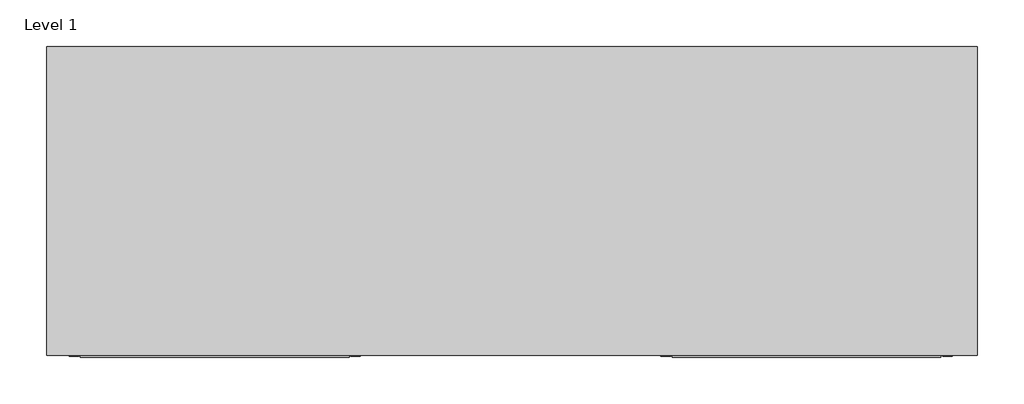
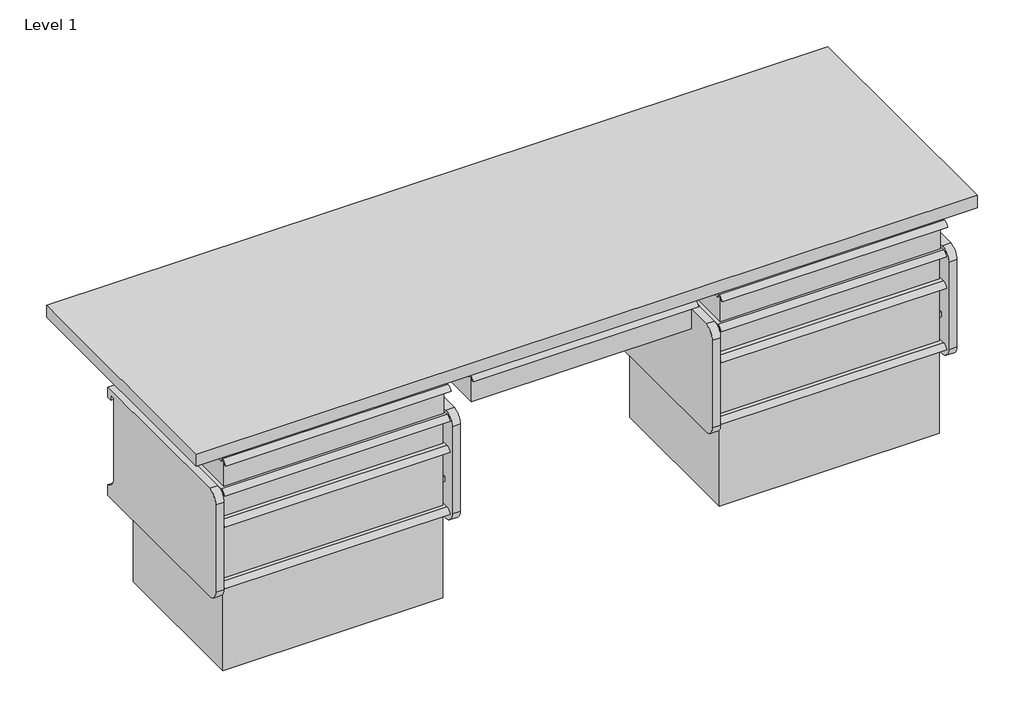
# One storey, incomplete: 12 furniture elements.
"""IFC4 building model written with IfcOpenShell, lengths in millimetres."""

import ifcopenshell
import ifcopenshell.guid

model = None  # the IFC model being written
_history = None  # IfcOwnerHistory: only IFC2X3 demands one
_inside = {}  # id of a spatial element -> (the spatial element, [elements in it])
_under = {}  # id of a project, library or spatial element -> (it, [spatial elements below it])
_declared = {}  # id of a project -> (the project, [libraries it declares])
_typed = {}  # id of a type object -> (the type object, [elements of that type])
_made_of = {}  # id of a material, layer set ... -> (it, [elements and type objects made of it])


def new_model(schema):
    """Start an empty IFC model of exactly this schema.

    Asked for "IFC4X3", IfcOpenShell would pick the latest addendum, in which some entities
    have other attributes; the version numbers below select the first issue.
    IFC2X3 requires an IfcOwnerHistory on every rooted entity: one is made here for all.
    """
    global model, _history
    if schema == "IFC4X3":
        model = ifcopenshell.file(schema_version=(4, 3, 0, 0))
    else:
        model = ifcopenshell.file(schema=schema)
    _inside.clear()
    _under.clear()
    _declared.clear()
    _typed.clear()
    _made_of.clear()
    _history = None
    if model.schema == "IFC2X3":
        org = make("IfcOrganization", Name="unknown")
        user = make(
            "IfcPersonAndOrganization",
            ThePerson=make("IfcPerson", FamilyName="unknown"),
            TheOrganization=org,
        )
        app = make(
            "IfcApplication",
            ApplicationDeveloper=org,
            Version="unknown",
            ApplicationFullName="unknown",
            ApplicationIdentifier="unknown",
        )
        _history = make(
            "IfcOwnerHistory",
            OwningUser=user,
            OwningApplication=app,
            ChangeAction="ADDED",
            CreationDate=0,
        )
    return model


def make(cls, **values):
    """One entity of the class cls with the attributes given. An attribute that is None is left unset."""
    return model.create_entity(
        cls, **{name: value for name, value in values.items() if value is not None}
    )


def rooted(cls, **values):
    """An entity with a GlobalId (a new one), such as an element, a storey or a relation."""
    return make(cls, GlobalId=ifcopenshell.guid.new(), OwnerHistory=_history, **values)


def si_unit(unit_type, name, prefix=None):
    """IfcSIUnit, for example si_unit("LENGTHUNIT", "METRE", prefix="MILLI")."""
    return make("IfcSIUnit", UnitType=unit_type, Prefix=prefix, Name=name)


def assignment(units):
    """IfcUnitAssignment: the units of a project."""
    return None if units is None else make("IfcUnitAssignment", Units=units)


def point(xyz):
    """IfcCartesianPoint."""
    return None if xyz is None else make("IfcCartesianPoint", Coordinates=xyz)


def direction(xyz):
    """IfcDirection."""
    return None if xyz is None else make("IfcDirection", DirectionRatios=xyz)


def frame(location, z_axis=None, x_axis=None):
    """IfcAxis2Placement3D, a coordinate frame: its origin and axes. An axis left out is left unset."""
    return make(
        "IfcAxis2Placement3D",
        Location=point(location),
        Axis=direction(z_axis),
        RefDirection=direction(x_axis),
    )


def origin():
    """The frame at (0, 0, 0) with its axes left unset."""
    return frame((0.0, 0.0, 0.0))


def place(relative_to, where):
    """IfcLocalPlacement: puts the frame where relative to a parent placement (None: the world)."""
    return make(
        "IfcLocalPlacement", PlacementRelTo=relative_to, RelativePlacement=where
    )


def context(
    kind, dimensions, precision=None, world=None, true_north=None, identifier=None
):
    """IfcGeometricRepresentationContext, for example the 3D "Model" context."""
    return make(
        "IfcGeometricRepresentationContext",
        ContextIdentifier=identifier,
        ContextType=kind,
        CoordinateSpaceDimension=dimensions,
        Precision=precision,
        WorldCoordinateSystem=world,
        TrueNorth=true_north,
    )


def project(units=None, contexts=None):
    """IfcProject with its units and contexts."""
    return rooted(
        "IfcProject",
        Name="project",
        RepresentationContexts=contexts,
        UnitsInContext=assignment(units),
    )


def spatial(cls, under=None, at=None, **own):
    """A site, building, storey or space (cls), placed at a placement, below another one or the project."""
    s = rooted(cls, ObjectPlacement=at, **own)
    if under is not None:
        _under.setdefault(under.id(), (under, []))[1].append(s)
    return s


def polyline(points):
    """IfcPolyline through the points."""
    return make("IfcPolyline", Points=[point(p) for p in points])


def circle_curve(where, radius):
    """IfcCircle in the frame where."""
    return make("IfcCircle", Position=where, Radius=radius)


def outline(outer, holes=None, kind="AREA"):
    """IfcArbitraryClosedProfileDef: a profile drawn as a closed curve; with holes, ...WithVoids."""
    if holes is None:
        return make("IfcArbitraryClosedProfileDef", ProfileType=kind, OuterCurve=outer)
    return make(
        "IfcArbitraryProfileDefWithVoids",
        ProfileType=kind,
        OuterCurve=outer,
        InnerCurves=holes,
    )


def extrude(swept, where, along, depth):
    """IfcExtrudedAreaSolid: the profile swept, set in the frame where, extruded along a direction by depth."""
    return make(
        "IfcExtrudedAreaSolid",
        SweptArea=swept,
        Position=where,
        ExtrudedDirection=direction(along),
        Depth=depth,
    )


def shape(context_of_items, identifier, shape_type, items):
    """IfcShapeRepresentation: the items that make up one representation, for example the "Body"."""
    return make(
        "IfcShapeRepresentation",
        ContextOfItems=context_of_items,
        RepresentationIdentifier=identifier,
        RepresentationType=shape_type,
        Items=items,
    )


def source(mapping_origin, context_of_items, identifier, shape_type, items):
    """IfcRepresentationMap: a shape defined once, which mapped items show again and again."""
    return make(
        "IfcRepresentationMap",
        MappingOrigin=mapping_origin,
        MappedRepresentation=shape(context_of_items, identifier, shape_type, items),
    )


def transform(
    local_origin,
    x_axis=None,
    y_axis=None,
    z_axis=None,
    scale=None,
    scale2=None,
    scale3=None,
    uniform=True,
):
    """IfcCartesianTransformationOperator3D, or its non-uniform kind. x_axis, y_axis, z_axis: its Axis1, 2, 3."""
    if uniform:
        return make(
            "IfcCartesianTransformationOperator3D",
            Axis1=direction(x_axis),
            Axis2=direction(y_axis),
            LocalOrigin=point(local_origin),
            Scale=scale,
            Axis3=direction(z_axis),
        )
    return make(
        "IfcCartesianTransformationOperator3DnonUniform",
        Axis1=direction(x_axis),
        Axis2=direction(y_axis),
        LocalOrigin=point(local_origin),
        Scale=scale,
        Axis3=direction(z_axis),
        Scale2=scale2,
        Scale3=scale3,
    )


def mapped(mapping_source, mapping_target):
    """IfcMappedItem: shows the shape of a source again, moved by a transform."""
    return make(
        "IfcMappedItem", MappingSource=mapping_source, MappingTarget=mapping_target
    )


def made_of(thing, what):
    """Note that an element or type object is made of a material, layer set ...; save() writes the relation."""
    if what is not None:
        _made_of.setdefault(what.id(), (what, []))[1].append(thing)
    return thing


def element(
    cls,
    number,
    at=None,
    inside=None,
    cuts=None,
    type_object=None,
    material=None,
    context=None,
    identifier="Body",
    shape_type=None,
    held_by="IfcProductDefinitionShape",
    body=None,
    shapes=None,
    **own,
):
    """One element of the class cls, such as IfcWall. Its Tag is "e" and its number.

    at: its placement. inside: the storey or other place that contains it. cuts: it is an
    opening in that element (IfcRelVoidsElement). A single representation is given by context,
    identifier, shape_type and body (its items); several are given by shapes. held_by: the class
    of the entity that holds the representations. save() writes the other relations.
    """
    e = rooted(cls, Tag="e%d" % number, ObjectPlacement=at, **own)
    if body is not None:
        shapes = [shape(context, identifier, shape_type, body)]
    if shapes is not None:
        e.Representation = make(held_by, Representations=shapes)
    if inside is not None:
        _inside.setdefault(inside.id(), (inside, []))[1].append(e)
    if cuts is not None:
        rooted(
            "IfcRelVoidsElement", RelatingBuildingElement=cuts, RelatedOpeningElement=e
        )
    if type_object is not None:
        _typed.setdefault(type_object.id(), (type_object, []))[1].append(e)
    return made_of(e, material)


def aggregate(whole, parts):
    """IfcRelAggregates: a whole, such as a stair, and the parts it consists of."""
    return rooted("IfcRelAggregates", RelatingObject=whole, RelatedObjects=parts)


def save(model, path):
    """Write the relations noted so far, then the file.

    IfcRelAggregates (storeys below a building ...), IfcRelContainedInSpatialStructure (elements
    in a storey), IfcRelDefinesByType, IfcRelAssociatesMaterial and IfcRelDeclares: one each for
    every whole, place, type object, material and project.
    """
    for whole, parts in _under.values():
        aggregate(whole, parts)
    for where, things in _inside.values():
        rooted(
            "IfcRelContainedInSpatialStructure",
            RelatedElements=things,
            RelatingStructure=where,
        )
    for kind, things in _typed.values():
        rooted("IfcRelDefinesByType", RelatedObjects=things, RelatingType=kind)
    for what, things in _made_of.values():
        rooted("IfcRelAssociatesMaterial", RelatedObjects=things, RelatingMaterial=what)
    for by, libraries in _declared.values():
        rooted("IfcRelDeclares", RelatingContext=by, RelatedDefinitions=libraries)
    model.write(path)


def plane_surface(at):
    """IfcPlane: the flat surface through the origin of the frame at, square to its z axis."""
    return make("IfcPlane", Position=at)


def cylinder_surface(at, radius):
    """IfcCylindricalSurface: all points at the distance radius from the z axis of the frame at."""
    return make("IfcCylindricalSurface", Position=at, Radius=radius)


def revolved_surface(curve, axis_point, axis_direction):
    """IfcSurfaceOfRevolution: the curve turned about the line through axis_point along axis_direction."""
    return make(
        "IfcSurfaceOfRevolution",
        SweptCurve=make("IfcArbitraryOpenProfileDef", ProfileType="CURVE", Curve=curve),
        AxisPosition=make("IfcAxis1Placement", Location=point(axis_point), Axis=direction(axis_direction)),
    )


def advanced_brep(points, edges, surfaces, faces):
    """IfcAdvancedBrep: a solid bounded by faces that lie on surfaces and meet in shared edges.

    An edge is (start, end): straight between two places in points (the first is 0);
    or (start, end, curve); or (start, end, curve, False) where it runs against its curve.
    A face is (place in surfaces, loops), or (place, loops, False) where it looks against
    its surface's normal. A loop lists edges by number (the first is 1), with a minus sign
    where the edge is run from its end to its start. The first loop is the outer one.
    """
    corners = [point(p) for p in points]
    vertices = [make("IfcVertexPoint", VertexGeometry=c) for c in corners]
    made = []
    for start, end, *more in edges:
        made.append(
            make(
                "IfcEdgeCurve",
                EdgeStart=vertices[start],
                EdgeEnd=vertices[end],
                EdgeGeometry=more[0] if more else make("IfcPolyline", Points=[corners[start], corners[end]]),
                SameSense=more[1] if len(more) > 1 else True,
            )
        )
    hull = []
    for where, loops, *sense in faces:
        bounds = []
        for j, loop in enumerate(loops):
            ring = [make("IfcOrientedEdge", EdgeElement=made[abs(k) - 1], Orientation=k > 0) for k in loop]
            bounds.append(
                make(
                    "IfcFaceOuterBound" if j == 0 else "IfcFaceBound",
                    Bound=make("IfcEdgeLoop", EdgeList=ring),
                    Orientation=True,
                )
            )
        hull.append(make("IfcAdvancedFace", Bounds=bounds, FaceSurface=surfaces[where], SameSense=sense[0] if sense else True))
    return make("IfcAdvancedBrep", Outer=make("IfcClosedShell", CfsFaces=hull))


def furniture_e68dc01e(model_context):
    return source(origin(), model_context, "Body", "SolidModel", [
        advanced_brep(
        [(-171.7622951, -331.6523397, 800.1), (-171.7622951, -357.0523397, 774.7), (-171.7622951, -357.0523397, 558.8), (-171.7622951, -331.6523397, 533.4), (-171.7622951, 43.0421197, 533.4), (-171.7622951, 43.0421197, 800.1), (-190.8122951, -331.6523397, 533.4), (-190.8122951, -357.0523397, 558.8), (-190.8122951, -357.0523397, 774.7), (-190.8122951, -331.6523397, 800.1), (-190.8122951, 81.0976603, 800.1), (-190.8122951, 81.0976603, 774.7), (-190.8122951, 68.4421197, 774.7), (-190.8122951, 68.4421197, 787.4), (-190.8122951, 55.7421197, 787.4), (-190.8122951, 55.7421197, 591.34502), (-190.8122951, 81.0976603, 558.8), (-190.8122951, 81.0976603, 533.4), (380.6877049, 81.0976603, 533.4), (380.6877049, -331.6523397, 533.4), (361.6377049, -331.6523397, 533.4), (361.6377049, 43.0421197, 533.4), (361.6377049, 43.0421197, 800.1), (361.6377049, -331.6523397, 800.1), (380.6877049, -331.6523397, 800.1), (380.6877049, 81.0976603, 800.1), (380.6877049, 81.0976603, 558.8), (380.6877049, 55.7421197, 591.34502), (380.6877049, 55.7421197, 787.4), (380.6877049, 68.4421197, 787.4), (380.6877049, 68.4421197, 774.7), (380.6877049, 81.0976603, 774.7), (380.6877049, -357.0523397, 774.7), (380.6877049, -357.0523397, 558.8), (361.6377049, -357.0523397, 558.8), (361.6377049, -357.0523397, 774.7)],
        [
            (0, 1, circle_curve(frame((-171.7622951, -331.6523397, 774.7), z_axis=(1.0, 0.0, 0.0), x_axis=(0.0, 0.0, 1.0)), 25.4)),
            (1, 2),
            (2, 3, circle_curve(frame((-171.7622951, -331.6523397, 558.8), z_axis=(1.0, 0.0, 0.0), x_axis=(0.0, 0.0, 1.0)), 25.4)),
            (3, 4),
            (4, 5),
            (5, 0),
            (6, 7, circle_curve(frame((-190.8122951, -331.6523397, 558.8), z_axis=(-1.0, 0.0, 0.0), x_axis=(0.0, 0.0, 1.0)), 25.4)),
            (7, 8),
            (8, 9, circle_curve(frame((-190.8122951, -331.6523397, 774.7), z_axis=(-1.0, 0.0, 0.0), x_axis=(0.0, 0.0, 1.0)), 25.4)),
            (9, 10),
            (10, 11),
            (11, 12),
            (12, 13),
            (13, 14),
            (14, 15),
            (15, 16, circle_curve(frame((-190.8122951, 89.3064162, 591.34502), z_axis=(1.0, 0.0, 0.0), x_axis=(0.0, 0.0, 1.0)), 33.5642965)),
            (16, 17),
            (17, 6),
            (0, 9),
            (8, 1),
            (7, 2),
            (6, 3),
            (17, 18),
            (18, 19),
            (19, 20),
            (20, 21),
            (21, 4),
            (5, 22),
            (22, 23),
            (23, 24),
            (24, 25),
            (25, 10),
            (18, 26),
            (26, 27, circle_curve(frame((380.6877049, 89.3064162, 591.34502), z_axis=(-1.0, 0.0, 0.0), x_axis=(0.0, 0.0, 1.0)), 33.5642965)),
            (27, 28),
            (28, 29),
            (29, 30),
            (30, 31),
            (31, 25),
            (24, 32, circle_curve(frame((380.6877049, -331.6523397, 774.7), z_axis=(1.0, 0.0, 0.0), x_axis=(0.0, 0.0, 1.0)), 25.4)),
            (32, 33),
            (33, 19, circle_curve(frame((380.6877049, -331.6523397, 558.8), z_axis=(1.0, 0.0, 0.0), x_axis=(0.0, 0.0, 1.0)), 25.4)),
            (16, 26),
            (15, 27),
            (14, 28),
            (13, 29),
            (12, 30),
            (11, 31),
            (21, 22),
            (20, 34, circle_curve(frame((361.6377049, -331.6523397, 558.8), z_axis=(-1.0, 0.0, 0.0), x_axis=(0.0, 0.0, 1.0)), 25.4)),
            (34, 35),
            (35, 23, circle_curve(frame((361.6377049, -331.6523397, 774.7), z_axis=(-1.0, 0.0, 0.0), x_axis=(0.0, 0.0, 1.0)), 25.4)),
            (35, 32),
            (34, 33),
        ],
        [
            plane_surface(frame((-171.7622951, -331.6523397, 800.1), z_axis=(1.0, 0.0, 0.0), x_axis=(0.0, -1.0, 0.0))),
            plane_surface(frame((-190.8122951, -331.6523397, 800.1), z_axis=(-1.0, 0.0, 0.0), x_axis=(0.0, 1.0, 0.0))),
            cylinder_surface(frame((-190.8122951, -331.6523397, 774.7), z_axis=(1.0, 0.0, 0.0), x_axis=(0.0, 0.0, 1.0)), 25.4),
            plane_surface(frame((-171.7622951, -357.0523397, 774.7), z_axis=(0.0, -1.0, 0.0), x_axis=(-1.0, 0.0, 0.0))),
            cylinder_surface(frame((-190.8122951, -331.6523397, 558.8), z_axis=(1.0, 0.0, 0.0), x_axis=(0.0, 0.0, 1.0)), 25.4),
            plane_surface(frame((-171.7622951, -331.6523397, 533.4), z_axis=(0.0, 0.0, -1.0), x_axis=(-1.0, 0.0, 0.0))),
            plane_surface(frame((-171.7622951, 43.0421197, 800.1), z_axis=(0.0, 0.0, 1.0), x_axis=(-1.0, 0.0, 0.0))),
            plane_surface(frame((380.6877049, 81.0976603, 558.8), z_axis=(1.0, 0.0, 0.0), x_axis=(0.0, 0.0, 1.0))),
            plane_surface(frame((380.6877049, 81.0976603, 533.4), z_axis=(0.0, 1.0, 0.0), x_axis=(-1.0, 0.0, 0.0))),
            revolved_surface(polyline([(-190.8122951, 89.3064162, 624.9093164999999), (380.68770489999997, 89.3064162, 624.9093164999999)]), (-190.8122951, 89.3064162, 591.34502), (-1.0, 0.0, 0.0)),
            plane_surface(frame((380.6877049, 55.7421197, 591.34502), z_axis=(0.0, 1.0, 0.0), x_axis=(-1.0, 0.0, 0.0))),
            plane_surface(frame((380.6877049, 55.7421197, 787.4), z_axis=(0.0, 0.0, -1.0), x_axis=(-1.0, 0.0, 0.0))),
            plane_surface(frame((380.6877049, 68.4421197, 787.4), z_axis=(0.0, -1.0, 0.0), x_axis=(-1.0, 0.0, 0.0))),
            plane_surface(frame((380.6877049, 68.4421197, 774.7), z_axis=(0.0, 0.0, -1.0), x_axis=(-1.0, 0.0, 0.0))),
            plane_surface(frame((380.6877049, 81.0976603, 774.7), z_axis=(0.0, 1.0, 0.0), x_axis=(-1.0, 0.0, 0.0))),
            plane_surface(frame((380.6877049, 43.0421197, 800.1), z_axis=(0.0, -1.0, 0.0), x_axis=(-1.0, 0.0, 0.0))),
            plane_surface(frame((361.6377049, -331.6523397, 800.1), z_axis=(-1.0, 0.0, 0.0), x_axis=(0.0, 1.0, 0.0))),
            cylinder_surface(frame((361.6377049, -331.6523397, 774.7), z_axis=(1.0, 0.0, 0.0), x_axis=(0.0, 0.0, 1.0)), 25.4),
            plane_surface(frame((380.6877049, -357.0523397, 774.7), z_axis=(0.0, -1.0, 0.0), x_axis=(-1.0, 0.0, 0.0))),
            cylinder_surface(frame((361.6377049, -331.6523397, 558.8), z_axis=(1.0, 0.0, 0.0), x_axis=(0.0, 0.0, 1.0)), 25.4),
        ],
        [
            (0, [[1, 2, 3, 4, 5, 6]]),
            (1, [[7, 8, 9, 10, 11, 12, 13, 14, 15, 16, 17, 18]]),
            (2, [[-1, 19, -9, 20]]),
            (3, [[-2, -20, -8, 21]]),
            (4, [[-3, -21, -7, 22]]),
            (5, [[-4, -22, -18, 23, 24, 25, 26, 27]]),
            (6, [[-6, 28, 29, 30, 31, 32, -10, -19]]),
            (7, [[-24, 33, 34, 35, 36, 37, 38, 39, -31, 40, 41, 42]]),
            (8, [[-33, -23, -17, 43]]),
            (9, [[-34, -43, -16, 44]]),
            (10, [[-35, -44, -15, 45]]),
            (11, [[-36, -45, -14, 46]]),
            (12, [[-37, -46, -13, 47]]),
            (13, [[-38, -47, -12, 48]]),
            (14, [[-39, -48, -11, -32]]),
            (15, [[-5, -27, 49, -28]]),
            (16, [[-29, -49, -26, 50, 51, 52]]),
            (17, [[-40, -30, -52, 53]]),
            (18, [[-41, -53, -51, 54]]),
            (19, [[-42, -54, -50, -25]]),
        ],
    ),
        extrude(outline(polyline([(355.2877049, -328.4773397), (355.2877049, 36.6921197), (361.6377049, 36.6921197), (361.6377049, -328.4773397), (355.2877049, -328.4773397)])), frame((0.0, 0.0, 622.3), z_axis=(0.0, 0.0, 1.0), x_axis=(1.0, 0.0, 0.0)), (0.0, 0.0, 1.0), 12.7),
        extrude(outline(polyline([(355.2877049, -328.4773397), (355.2877049, 36.6921197), (361.6377049, 36.6921197), (361.6377049, -328.4773397), (355.2877049, -328.4773397)])), frame((0.0, 0.0, 698.5), z_axis=(0.0, 0.0, 1.0), x_axis=(1.0, 0.0, 0.0)), (0.0, 0.0, 1.0), 12.7),
        extrude(outline(polyline([(355.2877049, -328.4773397), (355.2877049, 36.6921197), (361.6377049, 36.6921197), (361.6377049, -328.4773397), (355.2877049, -328.4773397)])), frame((0.0, 0.0, 774.7), z_axis=(0.0, 0.0, 1.0), x_axis=(1.0, 0.0, 0.0)), (0.0, 0.0, 1.0), 12.7),
        extrude(outline(polyline([(355.2877049, -328.4773397), (355.2877049, 36.6921197), (361.6377049, 36.6921197), (361.6377049, -328.4773397), (355.2877049, -328.4773397)])), frame((0.0, 0.0, 546.1), z_axis=(0.0, 0.0, 1.0), x_axis=(1.0, 0.0, 0.0)), (0.0, 0.0, 1.0), 12.7),
        extrude(outline(polyline([(-171.7622951, -328.4773397), (-171.7622951, 36.6921197), (-165.4122951, 36.6921197), (-165.4122951, -328.4773397), (-171.7622951, -328.4773397)])), frame((0.0, 0.0, 622.3), z_axis=(0.0, 0.0, 1.0), x_axis=(1.0, 0.0, 0.0)), (0.0, 0.0, 1.0), 12.7),
        extrude(outline(polyline([(-171.7622951, -328.4773397), (-171.7622951, 36.6921197), (-165.4122951, 36.6921197), (-165.4122951, -328.4773397), (-171.7622951, -328.4773397)])), frame((0.0, 0.0, 698.5), z_axis=(0.0, 0.0, 1.0), x_axis=(1.0, 0.0, 0.0)), (0.0, 0.0, 1.0), 12.7),
        extrude(outline(polyline([(-171.7622951, -328.4773397), (-171.7622951, 36.6921197), (-165.4122951, 36.6921197), (-165.4122951, -328.4773397), (-171.7622951, -328.4773397)])), frame((0.0, 0.0, 774.7), z_axis=(0.0, 0.0, 1.0), x_axis=(1.0, 0.0, 0.0)), (0.0, 0.0, 1.0), 12.7),
        extrude(outline(polyline([(-171.7622951, -328.4773397), (-171.7622951, 36.6921197), (-165.4122951, 36.6921197), (-165.4122951, -328.4773397), (-171.7622951, -328.4773397)])), frame((0.0, 0.0, 546.1), z_axis=(0.0, 0.0, 1.0), x_axis=(1.0, 0.0, 0.0)), (0.0, 0.0, 1.0), 12.7),
    ])


def a_3_21ecb1ea(model_context):
    return source(origin(), model_context, "Body", "AdvancedBrep", [
        advanced_brep(
        [(-257.1076517, -176.2125, 723.9), (257.2423483, -176.2125, 723.9), (257.2423483, -176.2125, 787.4), (263.5923483, -176.2125, 787.4), (263.5923483, -176.2125, 793.7071341), (-263.4576517, -176.2125, 793.7071341), (-263.4576517, -176.2125, 787.4), (-257.1076517, -176.2125, 787.4), (257.2423483, 185.7375, 723.9), (-257.1076517, 185.7375, 723.9), (-257.1076517, 185.7375, 787.4), (257.2423483, 185.7375, 787.4), (263.5923483, -181.6070544, 796.925), (263.5923483, 195.2625, 796.925), (-263.4576517, 195.2625, 796.925), (-263.4576517, -181.6070544, 796.925), (244.5423483, -168.275, 796.925), (-244.4076517, -168.275, 796.925), (-244.4076517, 176.2125, 796.925), (244.5423483, 176.2125, 796.925), (263.5923483, -195.2625, 787.4), (263.5923483, -191.8280601, 787.4), (263.5923483, -180.4714815, 793.7071341), (263.5923483, 195.2625, 787.4), (-263.4576517, 195.2625, 787.4), (-263.4576517, -180.4714815, 793.7071341), (-263.4576517, -191.8280601, 787.4), (-263.4576517, -195.2625, 787.4), (-244.4076517, -168.275, 726.9261719), (244.5423483, -168.275, 726.9261719), (244.5423483, 176.2125, 726.9261719), (-244.4076517, 176.2125, 726.9261719)],
        [
            (0, 1),
            (1, 2),
            (2, 3),
            (3, 4),
            (4, 5),
            (5, 6),
            (6, 7),
            (7, 0),
            (8, 9),
            (9, 10),
            (10, 11),
            (11, 8),
            (0, 9),
            (8, 1),
            (11, 2),
            (12, 13),
            (13, 14),
            (14, 15),
            (15, 12),
            (16, 17),
            (17, 18),
            (18, 19),
            (19, 16),
            (7, 10),
            (12, 20, circle_curve(frame((263.5923483, -181.6070544, 782.3739859), z_axis=(1.0, 0.0, 0.0), x_axis=(0.0, 1.0, 0.0)), 14.5510141)),
            (20, 21),
            (21, 22, circle_curve(frame((263.5923483, -181.6070544, 782.3739859), z_axis=(-1.0, 0.0, 0.0), x_axis=(0.0, 1.0, 0.0)), 11.3898979)),
            (22, 4),
            (3, 23),
            (23, 13),
            (14, 24),
            (24, 6),
            (5, 25),
            (25, 26, circle_curve(frame((-263.4576517, -181.6070544, 782.3739859), z_axis=(1.0, 0.0, 0.0), x_axis=(0.0, 1.0, 0.0)), 11.3898979)),
            (26, 27),
            (27, 15, circle_curve(frame((-263.4576517, -181.6070544, 782.3739859), z_axis=(-1.0, 0.0, 0.0), x_axis=(0.0, 1.0, 0.0)), 14.5510141)),
            (27, 20),
            (26, 21),
            (25, 22),
            (24, 23),
            (28, 29),
            (29, 30),
            (30, 31),
            (31, 28),
            (28, 17),
            (16, 29),
            (19, 30),
            (18, 31),
        ],
        [
            plane_surface(frame((257.2423483, -176.2125, 723.9), z_axis=(0.0, -1.0, 0.0), x_axis=(1.0, 0.0, 0.0))),
            plane_surface(frame((257.2423483, 185.7375, 723.9), z_axis=(0.0, 1.0, 0.0), x_axis=(-1.0, 0.0, 0.0))),
            plane_surface(frame((-257.1076517, -176.2125, 723.9), z_axis=(0.0, 0.0, -1.0), x_axis=(0.0, 1.0, 0.0))),
            plane_surface(frame((257.2423483, -176.2125, 723.9), z_axis=(1.0, 0.0, 0.0), x_axis=(0.0, 1.0, 0.0))),
            plane_surface(frame((257.2423483, -176.2125, 796.925), z_axis=(0.0, 0.0, 1.0), x_axis=(0.0, 1.0, 0.0))),
            plane_surface(frame((-257.1076517, -176.2125, 796.925), z_axis=(-1.0, 0.0, 0.0), x_axis=(0.0, 1.0, 0.0))),
            plane_surface(frame((263.5923483, 195.2625, 796.925), z_axis=(1.0, 0.0, 0.0), x_axis=(0.0, -1.0, 0.0))),
            plane_surface(frame((-263.4576517, 195.2625, 796.925), z_axis=(-1.0, 0.0, 0.0), x_axis=(0.0, 1.0, 0.0))),
            cylinder_surface(frame((-263.4576517, -181.6070544, 782.3739859), z_axis=(1.0, 0.0, 0.0), x_axis=(0.0, 1.0, 0.0)), 14.5510141),
            plane_surface(frame((263.5923483, -195.2625, 787.4), z_axis=(0.0, -7.291233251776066e-12, -1.0), x_axis=(-1.0, 0.0, 0.0))),
            revolved_surface(polyline([(-263.4576517, -170.21715650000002, 782.3739859), (263.59234829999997, -170.21715650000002, 782.3739859)]), (-263.4576517, -181.6070544, 782.3739859), (-1.0, 0.0, 0.0)),
            plane_surface(frame((263.5923483, -180.4714815, 793.7071341), z_axis=(0.0, -1.8115665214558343e-11, -1.0), x_axis=(-1.0, 0.0, 0.0))),
            plane_surface(frame((263.5923483, -176.2125, 787.4), z_axis=(0.0, 0.0, -1.0), x_axis=(-1.0, 0.0, 0.0))),
            plane_surface(frame((263.5923483, 195.2625, 787.4), z_axis=(0.0, 1.0, 0.0), x_axis=(-1.0, 0.0, 0.0))),
            plane_surface(frame((244.5423483, -168.275, 726.9261719), z_axis=(0.0, 0.0, 1.0), x_axis=(-1.0, 0.0, 0.0))),
            plane_surface(frame((-244.4076517, -168.275, 796.925), z_axis=(0.0, 1.0, 0.0), x_axis=(0.0, 0.0, -1.0))),
            plane_surface(frame((244.5423483, -168.275, 796.925), z_axis=(-1.0, 0.0, 0.0), x_axis=(0.0, 0.0, -1.0))),
            plane_surface(frame((244.5423483, 176.2125, 796.925), z_axis=(0.0, -1.0, 0.0), x_axis=(0.0, 0.0, -1.0))),
            plane_surface(frame((-244.4076517, 176.2125, 796.925), z_axis=(1.0, 0.0, 0.0), x_axis=(0.0, 0.0, -1.0))),
        ],
        [
            (0, [[1, 2, 3, 4, 5, 6, 7, 8]]),
            (1, [[9, 10, 11, 12]]),
            (2, [[-1, 13, -9, 14]]),
            (3, [[-14, -12, 15, -2]]),
            (4, [[16, 17, 18, 19], [20, 21, 22, 23]]),
            (5, [[-13, -8, 24, -10]]),
            (6, [[-16, 25, 26, 27, 28, -4, 29, 30]]),
            (7, [[31, 32, -6, 33, 34, 35, 36, -18]]),
            (8, [[-25, -19, -36, 37]]),
            (9, [[-26, -37, -35, 38]]),
            (10, [[-27, -38, -34, 39]]),
            (11, [[-28, -39, -33, -5]]),
            (12, [[-29, -3, -15, -11, -24, -7, -32, 40]]),
            (13, [[-30, -40, -31, -17]]),
            (14, [[41, 42, 43, 44]]),
            (15, [[-41, 45, -20, 46]]),
            (16, [[-42, -46, -23, 47]]),
            (17, [[-43, -47, -22, 48]]),
            (18, [[-44, -48, -21, -45]]),
        ],
    ),
    ])


def a_3_71a075e6(model_context):
    return source(origin(), model_context, "Body", "AdvancedBrep", [
        advanced_brep(
        [(-257.1076517, -176.2125, 800.1), (257.2423483, -176.2125, 800.1), (257.2423483, -176.2125, 863.6), (263.5923483, -176.2125, 863.6), (263.5923483, -176.2125, 869.9071341), (-263.4576517, -176.2125, 869.9071341), (-263.4576517, -176.2125, 863.6), (-257.1076517, -176.2125, 863.6), (257.2423483, 185.7375, 800.1), (-257.1076517, 185.7375, 800.1), (-257.1076517, 185.7375, 863.6), (257.2423483, 185.7375, 863.6), (263.5923483, -181.6070544, 873.125), (263.5923483, 195.2625, 873.125), (-263.4576517, 195.2625, 873.125), (-263.4576517, -181.6070544, 873.125), (244.5423483, -168.275, 873.125), (-244.4076517, -168.275, 873.125), (-244.4076517, 176.2125, 873.125), (244.5423483, 176.2125, 873.125), (263.5923483, -195.2625, 863.6), (263.5923483, -191.8280601, 863.6), (263.5923483, -180.4714815, 869.9071341), (263.5923483, 195.2625, 863.6), (-263.4576517, 195.2625, 863.6), (-263.4576517, -180.4714815, 869.9071341), (-263.4576517, -191.8280601, 863.6), (-263.4576517, -195.2625, 863.6), (-244.4076517, -168.275, 803.1261719), (244.5423483, -168.275, 803.1261719), (244.5423483, 176.2125, 803.1261719), (-244.4076517, 176.2125, 803.1261719)],
        [
            (0, 1),
            (1, 2),
            (2, 3),
            (3, 4),
            (4, 5),
            (5, 6),
            (6, 7),
            (7, 0),
            (8, 9),
            (9, 10),
            (10, 11),
            (11, 8),
            (0, 9),
            (8, 1),
            (11, 2),
            (12, 13),
            (13, 14),
            (14, 15),
            (15, 12),
            (16, 17),
            (17, 18),
            (18, 19),
            (19, 16),
            (7, 10),
            (12, 20, circle_curve(frame((263.5923483, -181.6070544, 858.5739859), z_axis=(1.0, 0.0, 0.0), x_axis=(0.0, 1.0, 0.0)), 14.5510141)),
            (20, 21),
            (21, 22, circle_curve(frame((263.5923483, -181.6070544, 858.5739859), z_axis=(-1.0, 0.0, 0.0), x_axis=(0.0, 1.0, 0.0)), 11.3898979)),
            (22, 4),
            (3, 23),
            (23, 13),
            (14, 24),
            (24, 6),
            (5, 25),
            (25, 26, circle_curve(frame((-263.4576517, -181.6070544, 858.5739859), z_axis=(1.0, 0.0, 0.0), x_axis=(0.0, 1.0, 0.0)), 11.3898979)),
            (26, 27),
            (27, 15, circle_curve(frame((-263.4576517, -181.6070544, 858.5739859), z_axis=(-1.0, 0.0, 0.0), x_axis=(0.0, 1.0, 0.0)), 14.5510141)),
            (27, 20),
            (26, 21),
            (25, 22),
            (24, 23),
            (28, 29),
            (29, 30),
            (30, 31),
            (31, 28),
            (28, 17),
            (16, 29),
            (19, 30),
            (18, 31),
        ],
        [
            plane_surface(frame((257.2423483, -176.2125, 800.1), z_axis=(0.0, -1.0, 0.0), x_axis=(1.0, 0.0, 0.0))),
            plane_surface(frame((257.2423483, 185.7375, 800.1), z_axis=(0.0, 1.0, 0.0), x_axis=(-1.0, 0.0, 0.0))),
            plane_surface(frame((-257.1076517, -176.2125, 800.1), z_axis=(0.0, 0.0, -1.0), x_axis=(0.0, 1.0, 0.0))),
            plane_surface(frame((257.2423483, -176.2125, 800.1), z_axis=(1.0, 0.0, 0.0), x_axis=(0.0, 1.0, 0.0))),
            plane_surface(frame((257.2423483, -176.2125, 873.125), z_axis=(0.0, 0.0, 1.0), x_axis=(0.0, 1.0, 0.0))),
            plane_surface(frame((-257.1076517, -176.2125, 873.125), z_axis=(-1.0, 0.0, 0.0), x_axis=(0.0, 1.0, 0.0))),
            plane_surface(frame((263.5923483, 195.2625, 873.125), z_axis=(1.0, 0.0, 0.0), x_axis=(0.0, -1.0, 0.0))),
            plane_surface(frame((-263.4576517, 195.2625, 873.125), z_axis=(-1.0, 0.0, 0.0), x_axis=(0.0, 1.0, 0.0))),
            cylinder_surface(frame((-263.4576517, -181.6070544, 858.5739859), z_axis=(1.0, 0.0, 0.0), x_axis=(0.0, 1.0, 0.0)), 14.5510141),
            plane_surface(frame((263.5923483, -195.2625, 863.6), z_axis=(0.0, -7.330645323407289e-12, -1.0), x_axis=(-1.0, 0.0, 0.0))),
            revolved_surface(polyline([(-263.4576517, -170.21715650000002, 858.5739859), (263.59234829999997, -170.21715650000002, 858.5739859)]), (-263.4576517, -181.6070544, 858.5739859), (-1.0, 0.0, 0.0)),
            plane_surface(frame((263.5923483, -180.4714815, 869.9071341), z_axis=(0.0, -1.8083883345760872e-11, -1.0), x_axis=(-1.0, 0.0, 0.0))),
            plane_surface(frame((263.5923483, -176.2125, 863.6), z_axis=(0.0, 0.0, -1.0), x_axis=(-1.0, 0.0, 0.0))),
            plane_surface(frame((263.5923483, 195.2625, 863.6), z_axis=(0.0, 1.0, 0.0), x_axis=(-1.0, 0.0, 0.0))),
            plane_surface(frame((244.5423483, -168.275, 803.1261719), z_axis=(0.0, 0.0, 1.0), x_axis=(-1.0, 0.0, 0.0))),
            plane_surface(frame((-244.4076517, -168.275, 873.125), z_axis=(0.0, 1.0, 0.0), x_axis=(0.0, 0.0, -1.0))),
            plane_surface(frame((244.5423483, -168.275, 873.125), z_axis=(-1.0, 0.0, 0.0), x_axis=(0.0, 0.0, -1.0))),
            plane_surface(frame((244.5423483, 176.2125, 873.125), z_axis=(0.0, -1.0, 0.0), x_axis=(0.0, 0.0, -1.0))),
            plane_surface(frame((-244.4076517, 176.2125, 873.125), z_axis=(1.0, 0.0, 0.0), x_axis=(0.0, 0.0, -1.0))),
        ],
        [
            (0, [[1, 2, 3, 4, 5, 6, 7, 8]]),
            (1, [[9, 10, 11, 12]]),
            (2, [[-1, 13, -9, 14]]),
            (3, [[-14, -12, 15, -2]]),
            (4, [[16, 17, 18, 19], [20, 21, 22, 23]]),
            (5, [[-13, -8, 24, -10]]),
            (6, [[-16, 25, 26, 27, 28, -4, 29, 30]]),
            (7, [[31, 32, -6, 33, 34, 35, 36, -18]]),
            (8, [[-25, -19, -36, 37]]),
            (9, [[-26, -37, -35, 38]]),
            (10, [[-27, -38, -34, 39]]),
            (11, [[-28, -39, -33, -5]]),
            (12, [[-29, -3, -15, -11, -24, -7, -32, 40]]),
            (13, [[-30, -40, -31, -17]]),
            (14, [[41, 42, 43, 44]]),
            (15, [[-41, 45, -20, 46]]),
            (16, [[-42, -46, -23, 47]]),
            (17, [[-43, -47, -22, 48]]),
            (18, [[-44, -48, -21, -45]]),
        ],
    ),
    ])


def b_6_b4610c64(model_context):
    return source(origin(), model_context, "Body", "AdvancedBrep", [
        advanced_brep(
        [(-257.1076517, -176.2125, 570.70752), (257.2423483, -176.2125, 570.70752), (257.2423483, -176.2125, 710.40752), (263.5923483, -176.2125, 710.40752), (263.5923483, -176.2125, 716.7146541), (-263.4576517, -176.2125, 716.7146541), (-263.4576517, -176.2125, 710.40752), (-257.1076517, -176.2125, 710.40752), (257.2423483, 185.7375, 570.70752), (-257.1076517, 185.7375, 570.70752), (-257.1076517, 185.7375, 710.40752), (257.2423483, 185.7375, 710.40752), (263.5923483, -181.6070544, 719.93252), (263.5923483, 195.2625, 719.93252), (-263.4576517, 195.2625, 719.93252), (-263.4576517, -181.6070544, 719.93252), (244.5423483, -168.275, 719.93252), (-244.4076517, -168.275, 719.93252), (-244.4076517, 176.2125, 719.93252), (244.5423483, 176.2125, 719.93252), (263.5923483, -195.2625, 710.40752), (263.5923483, -191.8280601, 710.40752), (263.5923483, -180.4714815, 716.7146541), (263.5923483, 195.2625, 710.40752), (-263.4576517, 195.2625, 710.40752), (-263.4576517, -180.4714815, 716.7146541), (-263.4576517, -191.8280601, 710.40752), (-263.4576517, -195.2625, 710.40752), (-244.4076517, -168.275, 573.7336919), (244.5423483, -168.275, 573.7336919), (244.5423483, 176.2125, 573.7336919), (-244.4076517, 176.2125, 573.7336919)],
        [
            (0, 1),
            (1, 2),
            (2, 3),
            (3, 4),
            (4, 5),
            (5, 6),
            (6, 7),
            (7, 0),
            (8, 9),
            (9, 10),
            (10, 11),
            (11, 8),
            (0, 9),
            (8, 1),
            (11, 2),
            (12, 13),
            (13, 14),
            (14, 15),
            (15, 12),
            (16, 17),
            (17, 18),
            (18, 19),
            (19, 16),
            (7, 10),
            (12, 20, circle_curve(frame((263.5923483, -181.6070544, 705.3815059), z_axis=(1.0, 0.0, 0.0), x_axis=(0.0, 1.0, 0.0)), 14.5510141)),
            (20, 21),
            (21, 22, circle_curve(frame((263.5923483, -181.6070544, 705.3815059), z_axis=(-1.0, 0.0, 0.0), x_axis=(0.0, 1.0, 0.0)), 11.3898979)),
            (22, 4),
            (3, 23),
            (23, 13),
            (14, 24),
            (24, 6),
            (5, 25),
            (25, 26, circle_curve(frame((-263.4576517, -181.6070544, 705.3815059), z_axis=(1.0, 0.0, 0.0), x_axis=(0.0, 1.0, 0.0)), 11.3898979)),
            (26, 27),
            (27, 15, circle_curve(frame((-263.4576517, -181.6070544, 705.3815059), z_axis=(-1.0, 0.0, 0.0), x_axis=(0.0, 1.0, 0.0)), 14.5510141)),
            (27, 20),
            (26, 21),
            (25, 22),
            (24, 23),
            (28, 29),
            (29, 30),
            (30, 31),
            (31, 28),
            (28, 17),
            (16, 29),
            (19, 30),
            (18, 31),
        ],
        [
            plane_surface(frame((257.2423483, -176.2125, 570.70752), z_axis=(0.0, -1.0, 0.0), x_axis=(1.0, 0.0, 0.0))),
            plane_surface(frame((257.2423483, 185.7375, 570.70752), z_axis=(0.0, 1.0, 0.0), x_axis=(-1.0, 0.0, 0.0))),
            plane_surface(frame((-257.1076517, -176.2125, 570.70752), z_axis=(0.0, 0.0, -1.0), x_axis=(0.0, 1.0, 0.0))),
            plane_surface(frame((257.2423483, -176.2125, 570.70752), z_axis=(1.0, 0.0, 0.0), x_axis=(0.0, 1.0, 0.0))),
            plane_surface(frame((257.2423483, -176.2125, 719.93252), z_axis=(0.0, 0.0, 1.0), x_axis=(0.0, 1.0, 0.0))),
            plane_surface(frame((-257.1076517, -176.2125, 719.93252), z_axis=(-1.0, 0.0, 0.0), x_axis=(0.0, 1.0, 0.0))),
            plane_surface(frame((263.5923483, 195.2625, 719.93252), z_axis=(1.0, 0.0, 0.0), x_axis=(0.0, -1.0, 0.0))),
            plane_surface(frame((-263.4576517, 195.2625, 719.93252), z_axis=(-1.0, 0.0, 0.0), x_axis=(0.0, 1.0, 0.0))),
            cylinder_surface(frame((-263.4576517, -181.6070544, 705.3815059), z_axis=(1.0, 0.0, 0.0), x_axis=(0.0, 1.0, 0.0)), 14.5510141),
            plane_surface(frame((263.5923483, -195.2625, 710.40752), z_axis=(0.0, -7.172997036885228e-12, -1.0), x_axis=(-1.0, 0.0, 0.0))),
            revolved_surface(polyline([(-263.4576517, -170.21715650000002, 705.3815059), (263.59234829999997, -170.21715650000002, 705.3815059)]), (-263.4576517, -181.6070544, 705.3815059), (-1.0, 0.0, 0.0)),
            plane_surface(frame((263.5923483, -180.4714815, 716.7146541), z_axis=(0.0, -1.779784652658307e-11, -1.0), x_axis=(-1.0, 0.0, 0.0))),
            plane_surface(frame((263.5923483, -176.2125, 710.40752), z_axis=(0.0, 0.0, -1.0), x_axis=(-1.0, 0.0, 0.0))),
            plane_surface(frame((263.5923483, 195.2625, 710.40752), z_axis=(0.0, 1.0, 0.0), x_axis=(-1.0, 0.0, 0.0))),
            plane_surface(frame((244.5423483, -168.275, 573.7336919), z_axis=(0.0, 0.0, 1.0), x_axis=(-1.0, 0.0, 0.0))),
            plane_surface(frame((-244.4076517, -168.275, 719.93252), z_axis=(0.0, 1.0, 0.0), x_axis=(0.0, 0.0, -1.0))),
            plane_surface(frame((244.5423483, -168.275, 719.93252), z_axis=(-1.0, 0.0, 0.0), x_axis=(0.0, 0.0, -1.0))),
            plane_surface(frame((244.5423483, 176.2125, 719.93252), z_axis=(0.0, -1.0, 0.0), x_axis=(0.0, 0.0, -1.0))),
            plane_surface(frame((-244.4076517, 176.2125, 719.93252), z_axis=(1.0, 0.0, 0.0), x_axis=(0.0, 0.0, -1.0))),
        ],
        [
            (0, [[1, 2, 3, 4, 5, 6, 7, 8]]),
            (1, [[9, 10, 11, 12]]),
            (2, [[-1, 13, -9, 14]]),
            (3, [[-14, -12, 15, -2]]),
            (4, [[16, 17, 18, 19], [20, 21, 22, 23]]),
            (5, [[-13, -8, 24, -10]]),
            (6, [[-16, 25, 26, 27, 28, -4, 29, 30]]),
            (7, [[31, 32, -6, 33, 34, 35, 36, -18]]),
            (8, [[-25, -19, -36, 37]]),
            (9, [[-26, -37, -35, 38]]),
            (10, [[-27, -38, -34, 39]]),
            (11, [[-28, -39, -33, -5]]),
            (12, [[-29, -3, -15, -11, -24, -7, -32, 40]]),
            (13, [[-30, -40, -31, -17]]),
            (14, [[41, 42, 43, 44]]),
            (15, [[-41, 45, -20, 46]]),
            (16, [[-42, -46, -23, 47]]),
            (17, [[-43, -47, -22, 48]]),
            (18, [[-44, -48, -21, -45]]),
        ],
    ),
    ])


def c_9_dd4388d3(model_context):
    return source(origin(), model_context, "Body", "AdvancedBrep", [
        advanced_brep(
        [(-257.1076517, -176.2125, 342.10752), (257.2423483, -176.2125, 342.10752), (257.2423483, -176.2125, 558.00752), (263.5923483, -176.2125, 558.00752), (263.5923483, -176.2125, 564.3146541), (-263.4576517, -176.2125, 564.3146541), (-263.4576517, -176.2125, 558.00752), (-257.1076517, -176.2125, 558.00752), (257.2423483, 185.7375, 342.10752), (-257.1076517, 185.7375, 342.10752), (-257.1076517, 185.7375, 558.00752), (257.2423483, 185.7375, 558.00752), (263.5923483, -181.6070544, 567.53252), (263.5923483, 195.2625, 567.53252), (-263.4576517, 195.2625, 567.53252), (-263.4576517, -181.6070544, 567.53252), (244.5423483, -168.275, 567.53252), (-244.4076517, -168.275, 567.53252), (-244.4076517, 176.2125, 567.53252), (244.5423483, 176.2125, 567.53252), (263.5923483, -195.2625, 558.00752), (263.5923483, -191.8280601, 558.00752), (263.5923483, -180.4714815, 564.3146541), (263.5923483, 195.2625, 558.00752), (-263.4576517, 195.2625, 558.00752), (-263.4576517, -180.4714815, 564.3146541), (-263.4576517, -191.8280601, 558.00752), (-263.4576517, -195.2625, 558.00752), (-244.4076517, -168.275, 345.1336919), (244.5423483, -168.275, 345.1336919), (244.5423483, 176.2125, 345.1336919), (-244.4076517, 176.2125, 345.1336919)],
        [
            (0, 1),
            (1, 2),
            (2, 3),
            (3, 4),
            (4, 5),
            (5, 6),
            (6, 7),
            (7, 0),
            (8, 9),
            (9, 10),
            (10, 11),
            (11, 8),
            (0, 9),
            (8, 1),
            (11, 2),
            (12, 13),
            (13, 14),
            (14, 15),
            (15, 12),
            (16, 17),
            (17, 18),
            (18, 19),
            (19, 16),
            (7, 10),
            (12, 20, circle_curve(frame((263.5923483, -181.6070544, 552.9815059), z_axis=(1.0, 0.0, 0.0), x_axis=(0.0, 1.0, 0.0)), 14.5510141)),
            (20, 21),
            (21, 22, circle_curve(frame((263.5923483, -181.6070544, 552.9815059), z_axis=(-1.0, 0.0, 0.0), x_axis=(0.0, 1.0, 0.0)), 11.3898979)),
            (22, 4),
            (3, 23),
            (23, 13),
            (14, 24),
            (24, 6),
            (5, 25),
            (25, 26, circle_curve(frame((-263.4576517, -181.6070544, 552.9815059), z_axis=(1.0, 0.0, 0.0), x_axis=(0.0, 1.0, 0.0)), 11.3898979)),
            (26, 27),
            (27, 15, circle_curve(frame((-263.4576517, -181.6070544, 552.9815059), z_axis=(-1.0, 0.0, 0.0), x_axis=(0.0, 1.0, 0.0)), 14.5510141)),
            (27, 20),
            (26, 21),
            (25, 22),
            (24, 23),
            (28, 29),
            (29, 30),
            (30, 31),
            (31, 28),
            (28, 17),
            (16, 29),
            (19, 30),
            (18, 31),
        ],
        [
            plane_surface(frame((257.2423483, -176.2125, 342.10752), z_axis=(0.0, -1.0, 0.0), x_axis=(1.0, 0.0, 0.0))),
            plane_surface(frame((257.2423483, 185.7375, 342.10752), z_axis=(0.0, 1.0, 0.0), x_axis=(-1.0, 0.0, 0.0))),
            plane_surface(frame((-257.1076517, -176.2125, 342.10752), z_axis=(0.0, 0.0, -1.0), x_axis=(0.0, 1.0, 0.0))),
            plane_surface(frame((257.2423483, -176.2125, 342.10752), z_axis=(1.0, 0.0, 0.0), x_axis=(0.0, 1.0, 0.0))),
            plane_surface(frame((257.2423483, -176.2125, 567.53252), z_axis=(0.0, 0.0, 1.0), x_axis=(0.0, 1.0, 0.0))),
            plane_surface(frame((-257.1076517, -176.2125, 567.53252), z_axis=(-1.0, 0.0, 0.0), x_axis=(0.0, 1.0, 0.0))),
            plane_surface(frame((263.5923483, 195.2625, 567.53252), z_axis=(1.0, 0.0, 0.0), x_axis=(0.0, -1.0, 0.0))),
            plane_surface(frame((-263.4576517, 195.2625, 567.53252), z_axis=(-1.0, 0.0, 0.0), x_axis=(0.0, 1.0, 0.0))),
            cylinder_surface(frame((-263.4576517, -181.6070544, 552.9815059), z_axis=(1.0, 0.0, 0.0), x_axis=(0.0, 1.0, 0.0)), 14.5510141),
            plane_surface(frame((263.5923483, -195.2625, 558.00752), z_axis=(0.0, -7.192703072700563e-12, -1.0), x_axis=(-1.0, 0.0, 0.0))),
            revolved_surface(polyline([(-263.4576517, -170.21715650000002, 552.9815059), (263.59234829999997, -170.21715650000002, 552.9815059)]), (-263.4576517, -181.6070544, 552.9815059), (-1.0, 0.0, 0.0)),
            plane_surface(frame((263.5923483, -180.4714815, 564.3146541), z_axis=(0.0, -1.779784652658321e-11, -1.0), x_axis=(-1.0, 0.0, 0.0))),
            plane_surface(frame((263.5923483, -176.2125, 558.00752), z_axis=(0.0, 0.0, -1.0), x_axis=(-1.0, 0.0, 0.0))),
            plane_surface(frame((263.5923483, 195.2625, 558.00752), z_axis=(0.0, 1.0, 0.0), x_axis=(-1.0, 0.0, 0.0))),
            plane_surface(frame((244.5423483, -168.275, 345.1336919), z_axis=(0.0, 0.0, 1.0), x_axis=(-1.0, 0.0, 0.0))),
            plane_surface(frame((-244.4076517, -168.275, 567.53252), z_axis=(0.0, 1.0, 0.0), x_axis=(0.0, 0.0, -1.0))),
            plane_surface(frame((244.5423483, -168.275, 567.53252), z_axis=(-1.0, 0.0, 0.0), x_axis=(0.0, 0.0, -1.0))),
            plane_surface(frame((244.5423483, 176.2125, 567.53252), z_axis=(0.0, -1.0, 0.0), x_axis=(0.0, 0.0, -1.0))),
            plane_surface(frame((-244.4076517, 176.2125, 567.53252), z_axis=(1.0, 0.0, 0.0), x_axis=(0.0, 0.0, -1.0))),
        ],
        [
            (0, [[1, 2, 3, 4, 5, 6, 7, 8]]),
            (1, [[9, 10, 11, 12]]),
            (2, [[-1, 13, -9, 14]]),
            (3, [[-14, -12, 15, -2]]),
            (4, [[16, 17, 18, 19], [20, 21, 22, 23]]),
            (5, [[-13, -8, 24, -10]]),
            (6, [[-16, 25, 26, 27, 28, -4, 29, 30]]),
            (7, [[31, 32, -6, 33, 34, 35, 36, -18]]),
            (8, [[-25, -19, -36, 37]]),
            (9, [[-26, -37, -35, 38]]),
            (10, [[-27, -38, -34, 39]]),
            (11, [[-28, -39, -33, -5]]),
            (12, [[-29, -3, -15, -11, -24, -7, -32, 40]]),
            (13, [[-30, -40, -31, -17]]),
            (14, [[41, 42, 43, 44]]),
            (15, [[-41, 45, -20, 46]]),
            (16, [[-42, -46, -23, 47]]),
            (17, [[-43, -47, -22, 48]]),
            (18, [[-44, -48, -21, -45]]),
        ],
    ),
    ])


def lam_24d_72w_e893b95b(model_context):
    return source(origin(), model_context, "Body", "SweptSolid", [
        extrude(outline(polyline([(1828.7999999, -3.0467299), (1828.7999999, -609.6), (3.1750001, -609.6), (3.1750001, -3.0467299), (1828.7999999, -3.0467299)])), frame((0.0, 0.0, 884.428), z_axis=(0.0, 0.0, 1.0), x_axis=(1.0, 0.0, 0.0)), (0.0, 0.0, 1.0), 29.972),
    ])


model = new_model("IFC4")

# Units and contexts
model_context = context("Model", 3, world=origin())
ifc_project = project(units=[si_unit("LENGTHUNIT", "METRE", prefix="MILLI")], contexts=[model_context])

# Site, building, storey
site = spatial("IfcSite", under=ifc_project)
building = spatial("IfcBuilding", under=site)
storey = spatial("IfcBuildingStorey", under=building, Name="Level 1", Elevation=0.0)

# Furniture
placement = place(None, origin())
furniture_shape = furniture_e68dc01e(model_context)
element("IfcFurniture", 1, ObjectType="HermanMiller_CoStruc_CO205_CFrame : 10H x 17D x 22W", at=placement, inside=storey, context=model_context, shape_type="MappedRepresentation", body=[
    mapped(furniture_shape, transform((1398.6534151, -254.7892197, 0.0), x_axis=(1.0, 0.0, 0.0), y_axis=(0.0, 1.0, 0.0), z_axis=(0.0, 0.0, 1.0))),
])
element("IfcFurniture", 2, ObjectType="HermanMiller_CoStruc_CO205_CFrame : 10H x 17D x 22W", at=placement, inside=storey, context=model_context, shape_type="MappedRepresentation", body=[
    mapped(furniture_shape, transform((238.1502751, -254.7892197, 0.0), x_axis=(1.0, 0.0, 0.0), y_axis=(0.0, 1.0, 0.0), z_axis=(0.0, 0.0, 1.0))),
])
a_3_shape = a_3_21ecb1ea(model_context)
element("IfcFurniture", 3, ObjectType="HermanMiller_CoStruc_CO207_Drawer : A - 3", at=placement, inside=storey, context=model_context, shape_type="MappedRepresentation", body=[
    mapped(a_3_shape, transform((1493.5237717, -414.18002, 0.0), x_axis=(1.0, 0.0, 0.0), y_axis=(0.0, 1.0, 0.0), z_axis=(0.0, 0.0, 1.0))),
])
element("IfcFurniture", 4, ObjectType="HermanMiller_CoStruc_CO207_Drawer : A - 3", at=placement, inside=storey, context=model_context, shape_type="MappedRepresentation", body=[
    mapped(a_3_shape, transform((333.0206317, -414.18002, 0.0), x_axis=(1.0, 0.0, 0.0), y_axis=(0.0, 1.0, 0.0), z_axis=(0.0, 0.0, 1.0))),
])
a_3_2_shape = a_3_71a075e6(model_context)
element("IfcFurniture", 5, ObjectType="HermanMiller_CoStruc_CO207_Drawer : A - 3", at=placement, inside=storey, context=model_context, shape_type="MappedRepresentation", body=[
    mapped(a_3_2_shape, transform((915.9201517, -410.39288, 0.0), x_axis=(1.0, 0.0, 0.0), y_axis=(0.0, 1.0, 0.0), z_axis=(0.0, 0.0, 1.0))),
])
element("IfcFurniture", 6, ObjectType="HermanMiller_CoStruc_CO207_Drawer : A - 3", at=placement, inside=storey, context=model_context, shape_type="MappedRepresentation", body=[
    mapped(a_3_2_shape, transform((333.0206317, -418.1475, 0.0), x_axis=(1.0, 0.0, 0.0), y_axis=(0.0, 1.0, 0.0), z_axis=(0.0, 0.0, 1.0))),
])
element("IfcFurniture", 7, ObjectType="HermanMiller_CoStruc_CO207_Drawer : A - 3", at=placement, inside=storey, context=model_context, shape_type="MappedRepresentation", body=[
    mapped(a_3_2_shape, transform((1493.5237717, -418.1475, 0.0), x_axis=(1.0, 0.0, 0.0), y_axis=(0.0, 1.0, 0.0), z_axis=(0.0, 0.0, 1.0))),
])
b_6_shape = b_6_b4610c64(model_context)
element("IfcFurniture", 8, ObjectType="HermanMiller_CoStruc_CO207_Drawer : B - 6", at=placement, inside=storey, context=model_context, shape_type="MappedRepresentation", body=[
    mapped(b_6_shape, transform((1493.5237717, -414.18002, 0.0), x_axis=(1.0, 0.0, 0.0), y_axis=(0.0, 1.0, 0.0), z_axis=(0.0, 0.0, 1.0))),
])
element("IfcFurniture", 9, ObjectType="HermanMiller_CoStruc_CO207_Drawer : B - 6", at=placement, inside=storey, context=model_context, shape_type="MappedRepresentation", body=[
    mapped(b_6_shape, transform((333.0206317, -414.18002, 0.0), x_axis=(1.0, 0.0, 0.0), y_axis=(0.0, 1.0, 0.0), z_axis=(0.0, 0.0, 1.0))),
])
c_9_shape = c_9_dd4388d3(model_context)
element("IfcFurniture", 10, ObjectType="HermanMiller_CoStruc_CO207_Drawer : C - 9", at=placement, inside=storey, context=model_context, shape_type="MappedRepresentation", body=[
    mapped(c_9_shape, transform((1493.5237717, -414.18002, 0.0), x_axis=(1.0, 0.0, 0.0), y_axis=(0.0, 1.0, 0.0), z_axis=(0.0, 0.0, 1.0))),
])
element("IfcFurniture", 11, ObjectType="HermanMiller_CoStruc_CO207_Drawer : C - 9", at=placement, inside=storey, context=model_context, shape_type="MappedRepresentation", body=[
    mapped(c_9_shape, transform((333.0206317, -414.18002, 0.0), x_axis=(1.0, 0.0, 0.0), y_axis=(0.0, 1.0, 0.0), z_axis=(0.0, 0.0, 1.0))),
])
lam_24d_72w_shape = lam_24d_72w_e893b95b(model_context)
element("IfcFurniture", 12, ObjectType="HermanMiller_CoStruc_C4700_RectangularWorkTableSurface : Lam 24D 72W", at=placement, inside=storey, context=model_context, shape_type="MappedRepresentation", body=[
    mapped(lam_24d_72w_shape, transform((0.0, 0.0, 0.0), x_axis=(1.0, 0.0, 0.0), y_axis=(0.0, 1.0, 0.0), z_axis=(0.0, 0.0, 1.0))),
])

save(model, "model.ifc")
